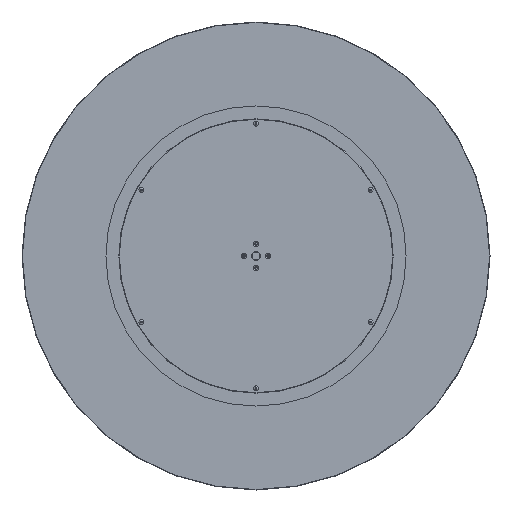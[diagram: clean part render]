
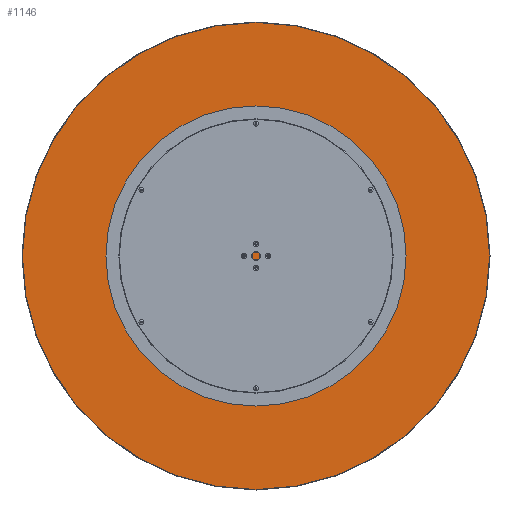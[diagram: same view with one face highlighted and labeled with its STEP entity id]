
A CAD part, front view. The second image highlights one B-rep face of the part: STEP entity #1146.
In plain terms, the highlighted planar face has unit normal (0, -1, 0).
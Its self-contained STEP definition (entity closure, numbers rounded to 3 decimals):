
#49 = AXIS2_PLACEMENT_3D ( 'NONE', #2220, #2013, #3795 ) ;
#60 = ORIENTED_EDGE ( 'NONE', *, *, #429, .F. ) ;
#142 = DIRECTION ( 'NONE',  ( 0., -1., 0. ) ) ;
#177 = PLANE ( 'NONE',  #580 ) ;
#186 = CARTESIAN_POINT ( 'NONE',  ( 222.385, 0., -222.385 ) ) ;
#228 = CIRCLE ( 'NONE', #365, 3. ) ;
#279 = CIRCLE ( 'NONE', #4046, 723.75 ) ;
#352 = CIRCLE ( 'NONE', #1544, 3. ) ;
#365 = AXIS2_PLACEMENT_3D ( 'NONE', #826, #2223, #3638 ) ;
#366 = EDGE_LOOP ( 'NONE', ( #1590, #952 ) ) ;
#397 = ORIENTED_EDGE ( 'NONE', *, *, #633, .F. ) ;
#417 = ORIENTED_EDGE ( 'NONE', *, *, #2555, .F. ) ;
#429 = EDGE_CURVE ( 'NONE', #3504, #3480, #3234, .T. ) ;
#441 = AXIS2_PLACEMENT_3D ( 'NONE', #1872, #3958, #1558 ) ;
#490 = AXIS2_PLACEMENT_3D ( 'NONE', #186, #870, #1894 ) ;
#501 = DIRECTION ( 'NONE',  ( 0., -1., 0. ) ) ;
#505 = CARTESIAN_POINT ( 'NONE',  ( 222.385, 0., -219.385 ) ) ;
#531 = EDGE_LOOP ( 'NONE', ( #4535, #2832 ) ) ;
#559 = ORIENTED_EDGE ( 'NONE', *, *, #2095, .T. ) ;
#567 = AXIS2_PLACEMENT_3D ( 'NONE', #2866, #2494, #3840 ) ;
#570 = ORIENTED_EDGE ( 'NONE', *, *, #612, .F. ) ;
#580 = AXIS2_PLACEMENT_3D ( 'NONE', #4101, #3054, #909 ) ;
#596 = FACE_BOUND ( 'NONE', #2192, .T. ) ;
#602 = VERTEX_POINT ( 'NONE', #2839 ) ;
#612 = EDGE_CURVE ( 'NONE', #602, #1223, #2933, .T. ) ;
#633 = EDGE_CURVE ( 'NONE', #3480, #3504, #3091, .T. ) ;
#826 = CARTESIAN_POINT ( 'NONE',  ( 222.385, 0., -222.385 ) ) ;
#870 = DIRECTION ( 'NONE',  ( 0., -1., 0. ) ) ;
#883 = AXIS2_PLACEMENT_3D ( 'NONE', #1185, #501, #1497 ) ;
#909 = DIRECTION ( 'NONE',  ( 0., 0., 1. ) ) ;
#952 = ORIENTED_EDGE ( 'NONE', *, *, #4282, .F. ) ;
#1001 = CARTESIAN_POINT ( 'NONE',  ( 222.385, 0., -225.385 ) ) ;
#1039 = CIRCLE ( 'NONE', #3619, 723.75 ) ;
#1062 = CARTESIAN_POINT ( 'NONE',  ( 0., 0., 0. ) ) ;
#1066 = EDGE_CURVE ( 'NONE', #4515, #1643, #279, .T. ) ;
#1146 = ADVANCED_FACE ( 'NONE', ( #3765, #3721, #596, #3416, #1289 ), #177, .F. ) ;
#1185 = CARTESIAN_POINT ( 'NONE',  ( -222.385, 0., -222.385 ) ) ;
#1223 = VERTEX_POINT ( 'NONE', #4383 ) ;
#1265 = CARTESIAN_POINT ( 'NONE',  ( -222.385, 0., -225.385 ) ) ;
#1289 = FACE_OUTER_BOUND ( 'NONE', #4365, .T. ) ;
#1493 = DIRECTION ( 'NONE',  ( 0., 0., 1. ) ) ;
#1497 = DIRECTION ( 'NONE',  ( 0., 0., -1. ) ) ;
#1528 = CIRCLE ( 'NONE', #490, 3. ) ;
#1544 = AXIS2_PLACEMENT_3D ( 'NONE', #2687, #2014, #2317 ) ;
#1558 = DIRECTION ( 'NONE',  ( 0., 0., -1. ) ) ;
#1568 = EDGE_CURVE ( 'NONE', #2915, #3252, #352, .T. ) ;
#1590 = ORIENTED_EDGE ( 'NONE', *, *, #1568, .F. ) ;
#1611 = CARTESIAN_POINT ( 'NONE',  ( -222.385, 0., -219.385 ) ) ;
#1643 = VERTEX_POINT ( 'NONE', #2662 ) ;
#1741 = DIRECTION ( 'NONE',  ( 0., 0., 1. ) ) ;
#1750 = CARTESIAN_POINT ( 'NONE',  ( 222.385, 0., 225.385 ) ) ;
#1854 = DIRECTION ( 'NONE',  ( 0., 0., -1. ) ) ;
#1872 = CARTESIAN_POINT ( 'NONE',  ( -222.385, 0., 222.385 ) ) ;
#1894 = DIRECTION ( 'NONE',  ( 0., 0., -1. ) ) ;
#2013 = DIRECTION ( 'NONE',  ( 0., -1., 0. ) ) ;
#2014 = DIRECTION ( 'NONE',  ( 0., -1., 0. ) ) ;
#2095 = EDGE_CURVE ( 'NONE', #1643, #4515, #1039, .T. ) ;
#2192 = EDGE_LOOP ( 'NONE', ( #397, #60 ) ) ;
#2220 = CARTESIAN_POINT ( 'NONE',  ( -222.385, 0., -222.385 ) ) ;
#2223 = DIRECTION ( 'NONE',  ( 0., -1., 0. ) ) ;
#2317 = DIRECTION ( 'NONE',  ( 0., 0., -1. ) ) ;
#2494 = DIRECTION ( 'NONE',  ( 0., -1., 0. ) ) ;
#2555 = EDGE_CURVE ( 'NONE', #1223, #602, #2886, .T. ) ;
#2603 = EDGE_CURVE ( 'NONE', #2961, #4426, #228, .T. ) ;
#2610 = EDGE_LOOP ( 'NONE', ( #570, #417 ) ) ;
#2662 = CARTESIAN_POINT ( 'NONE',  ( 0., 0., 723.75 ) ) ;
#2687 = CARTESIAN_POINT ( 'NONE',  ( 222.385, 0., 222.385 ) ) ;
#2832 = ORIENTED_EDGE ( 'NONE', *, *, #2603, .F. ) ;
#2839 = CARTESIAN_POINT ( 'NONE',  ( -222.385, 0., 219.385 ) ) ;
#2860 = AXIS2_PLACEMENT_3D ( 'NONE', #3685, #142, #1854 ) ;
#2866 = CARTESIAN_POINT ( 'NONE',  ( -222.385, 0., 222.385 ) ) ;
#2885 = DIRECTION ( 'NONE',  ( 0., -1., 0. ) ) ;
#2886 = CIRCLE ( 'NONE', #441, 3. ) ;
#2915 = VERTEX_POINT ( 'NONE', #3491 ) ;
#2933 = CIRCLE ( 'NONE', #567, 3. ) ;
#2961 = VERTEX_POINT ( 'NONE', #505 ) ;
#3054 = DIRECTION ( 'NONE',  ( 0., 1., 0. ) ) ;
#3091 = CIRCLE ( 'NONE', #883, 3. ) ;
#3215 = CARTESIAN_POINT ( 'NONE',  ( 0., 0., 0. ) ) ;
#3234 = CIRCLE ( 'NONE', #49, 3. ) ;
#3252 = VERTEX_POINT ( 'NONE', #1750 ) ;
#3378 = CIRCLE ( 'NONE', #2860, 3. ) ;
#3416 = FACE_BOUND ( 'NONE', #2610, .T. ) ;
#3480 = VERTEX_POINT ( 'NONE', #1265 ) ;
#3491 = CARTESIAN_POINT ( 'NONE',  ( 222.385, 0., 219.385 ) ) ;
#3504 = VERTEX_POINT ( 'NONE', #1611 ) ;
#3581 = CARTESIAN_POINT ( 'NONE',  ( 0., 0., -723.75 ) ) ;
#3619 = AXIS2_PLACEMENT_3D ( 'NONE', #1062, #3853, #1741 ) ;
#3638 = DIRECTION ( 'NONE',  ( 0., 0., -1. ) ) ;
#3685 = CARTESIAN_POINT ( 'NONE',  ( 222.385, 0., 222.385 ) ) ;
#3699 = ORIENTED_EDGE ( 'NONE', *, *, #1066, .T. ) ;
#3721 = FACE_BOUND ( 'NONE', #531, .T. ) ;
#3765 = FACE_BOUND ( 'NONE', #366, .T. ) ;
#3795 = DIRECTION ( 'NONE',  ( 0., 0., -1. ) ) ;
#3840 = DIRECTION ( 'NONE',  ( 0., 0., -1. ) ) ;
#3853 = DIRECTION ( 'NONE',  ( 0., -1., 0. ) ) ;
#3958 = DIRECTION ( 'NONE',  ( 0., -1., 0. ) ) ;
#4046 = AXIS2_PLACEMENT_3D ( 'NONE', #3215, #2885, #1493 ) ;
#4101 = CARTESIAN_POINT ( 'NONE',  ( 0., 0., 0. ) ) ;
#4239 = EDGE_CURVE ( 'NONE', #4426, #2961, #1528, .T. ) ;
#4282 = EDGE_CURVE ( 'NONE', #3252, #2915, #3378, .T. ) ;
#4365 = EDGE_LOOP ( 'NONE', ( #559, #3699 ) ) ;
#4383 = CARTESIAN_POINT ( 'NONE',  ( -222.385, 0., 225.385 ) ) ;
#4426 = VERTEX_POINT ( 'NONE', #1001 ) ;
#4515 = VERTEX_POINT ( 'NONE', #3581 ) ;
#4535 = ORIENTED_EDGE ( 'NONE', *, *, #4239, .F. ) ;
